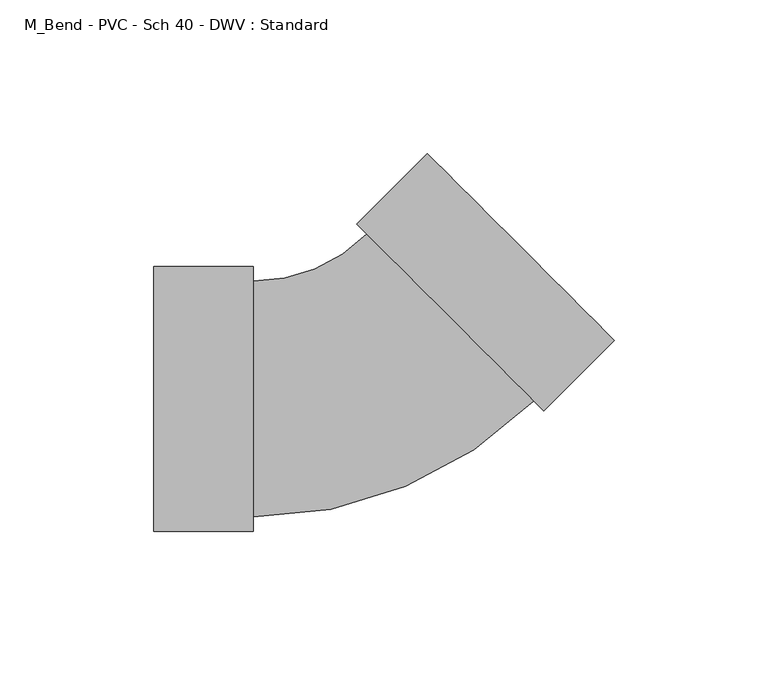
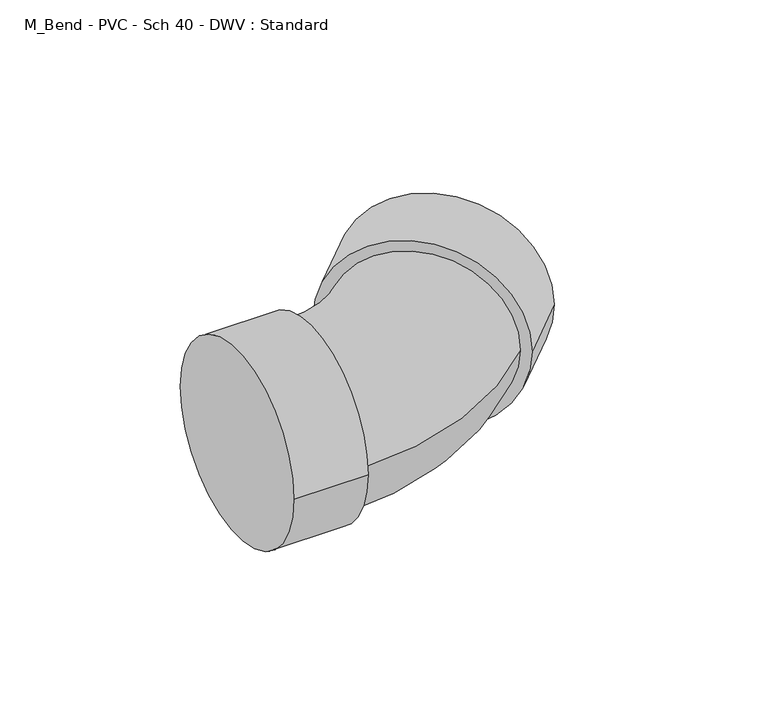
"""IFC4 building model written with IfcOpenShell, lengths in millimetres: pipe fitting geometry, M_Bend - PVC - Sch 40 - DWV : Standard."""

from ifc_helpers import new_model, si_unit, point, frame, origin, place, context, project, spatial, circle_curve, ellipse_curve, trimmed, source, transform, mapped, element, save
from ifc_brep_helpers import plane_surface, cylinder_surface, revolved_surface, advanced_brep


def m_bend_pvc_sch_40_dwv_standard_fbb643c2(model_context):
    return source(origin(), model_context, "Body", "AdvancedBrep", [
        advanced_brep(
        [(-70.0640625, -43.0871094, 0.0), (-70.0640625, 43.0871094, 0.0), (-37.5640625, -43.0871094, 0.0), (-37.5640625, 43.0871094, 0.0), (-37.5640625, -38.3640625, 0.0), (-37.5640625, 38.3640625, 0.0), (-0.5728336, 53.6892163, 0.0), (53.6893669, -0.5585373, 0.0), (57.02951, -3.8977911, 0.0), (-3.9129767, 57.0284701, 0.0), (80.0074205, 19.0862388, 0.0), (19.0649338, 80.0124999, 0.0)],
        [
            (0, 1, circle_curve(frame((-70.0640625, 0.0, 0.0), z_axis=(-1.0, 0.0, 0.0), x_axis=(0.0, 1.0, 0.0)), 43.0871094)),
            (1, 0, circle_curve(frame((-70.0640625, 0.0, 0.0), z_axis=(-1.0, 0.0, 0.0), x_axis=(0.0, 1.0, 0.0)), 43.0871094)),
            (2, 3, circle_curve(frame((-37.5640625, 0.0, 0.0), z_axis=(1.0, 0.0, 0.0), x_axis=(0.0, 1.0, 0.0)), 43.0871094)),
            (3, 2, circle_curve(frame((-37.5640625, 0.0, 0.0), z_axis=(1.0, 0.0, 0.0), x_axis=(0.0, 1.0, 0.0)), 43.0871094)),
            (4, 5, circle_curve(frame((-37.5640625, 0.0, 0.0), z_axis=(-1.0, 0.0, 0.0), x_axis=(0.0, 1.0, 0.0)), 38.3640625)),
            (5, 4, circle_curve(frame((-37.5640625, 0.0, 0.0), z_axis=(-1.0, 0.0, 0.0), x_axis=(0.0, 1.0, 0.0)), 38.3640625)),
            (0, 2),
            (3, 1),
            (6, 5, circle_curve(frame((-37.5640625, 90.6705965, 0.0), z_axis=(0.0, 0.0, -1.0), x_axis=(0.0, -1.0, 0.0)), 52.306534)),
            (4, 7, circle_curve(frame((-37.5640625, 90.6705965, 0.0), z_axis=(0.0, 0.0, 1.0), x_axis=(0.0, -1.0, 0.0)), 129.034659)),
            (7, 6, circle_curve(frame((26.5582667, 26.5653395, 0.0), z_axis=(-0.7070126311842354, -0.7072009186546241, 0.0), x_axis=(-0.7072009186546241, 0.7070126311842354, 0.0)), 38.3640625)),
            (6, 7, circle_curve(frame((26.5582667, 26.5653395, 0.0), z_axis=(-0.7070126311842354, -0.7072009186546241, 0.0), x_axis=(-0.7072009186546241, 0.7070126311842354, 0.0)), 38.3640625)),
            (8, 9, circle_curve(frame((26.5582667, 26.5653395, 0.0), z_axis=(-0.7070126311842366, -0.707200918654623, 0.0), x_axis=(-0.707200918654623, 0.7070126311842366, 0.0)), 43.0871094)),
            (9, 8, circle_curve(frame((26.5582667, 26.5653395, 0.0), z_axis=(-0.7070126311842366, -0.707200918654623, 0.0), x_axis=(-0.707200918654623, 0.7070126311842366, 0.0)), 43.0871094)),
            (10, 11, circle_curve(frame((49.5361772, 49.5493694, 0.0), z_axis=(0.7070126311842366, 0.707200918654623, 0.0), x_axis=(-0.707200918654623, 0.7070126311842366, 0.0)), 43.0871094)),
            (11, 10, circle_curve(frame((49.5361772, 49.5493694, 0.0), z_axis=(0.7070126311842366, 0.707200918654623, 0.0), x_axis=(-0.707200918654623, 0.7070126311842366, 0.0)), 43.0871094)),
            (8, 10),
            (11, 9),
        ],
        [
            plane_surface(frame((-70.0640625, 0.0, 0.0), z_axis=(-1.0, 0.0, 0.0), x_axis=(0.0, 0.0, 1.0))),
            plane_surface(frame((-37.5640625, 0.0, 0.0), z_axis=(1.0, 0.0, 0.0), x_axis=(0.0, 0.0, 1.0))),
            cylinder_surface(frame((-70.0640625, 0.0, 0.0), z_axis=(-1.0, 0.0, 0.0), x_axis=(0.0, 1.0, 0.0)), 43.0871094),
            revolved_surface(trimmed(ellipse_curve(frame((-37.5640625, 0.0, 0.0), z_axis=(-1.0, 0.0, 0.0), x_axis=(0.0, 1.0, 0.0)), 38.3640625, 38.3640625), [point((-37.5640625, -38.3640625, 0.0))], [point((-37.5640625, 38.3640625, 0.0))], True, "CARTESIAN"), (-37.5640625, 90.6705965, 0.0), (0.0, 0.0, 1.0)),
            revolved_surface(trimmed(ellipse_curve(frame((-37.5640625, 0.0, 0.0), z_axis=(-1.0, 0.0, 0.0), x_axis=(0.0, 1.0, 0.0)), 38.3640625, 38.3640625), [point((-37.5640625, 38.3640625, 0.0))], [point((-37.5640625, -38.3640625, 0.0))], True, "CARTESIAN"), (-37.5640625, 90.6705965, 0.0), (0.0, 0.0, 1.0)),
            plane_surface(frame((26.5582667, 26.5653395, 0.0), z_axis=(-0.7070126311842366, -0.707200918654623, 0.0), x_axis=(0.0, 0.0, 1.0))),
            plane_surface(frame((49.5361772, 49.5493694, 0.0), z_axis=(0.7070126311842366, 0.707200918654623, 0.0), x_axis=(0.0, 0.0, 1.0))),
            cylinder_surface(frame((26.5582667, 26.5653395, 0.0), z_axis=(-0.7070126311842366, -0.707200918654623, 0.0), x_axis=(-0.707200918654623, 0.7070126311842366, 0.0)), 43.0871094),
        ],
        [
            (0, [[1, 2]]),
            (1, [[3, 4], [5, 6]]),
            (2, [[-1, 7, -4, 8]]),
            (2, [[-2, -8, -3, -7]]),
            (3, [[9, -5, 10, 11]]),
            (4, [[-9, 12, -10, -6]]),
            (5, [[13, 14], [-11, -12]]),
            (6, [[15, 16]]),
            (7, [[-13, 17, -16, 18]]),
            (7, [[-14, -18, -15, -17]]),
        ],
    ),
    ])


if __name__ == "__main__":
    model = new_model("IFC4")
    model_context = context("Model", 3, world=origin())
    ifc_project = project(units=[si_unit("LENGTHUNIT", "METRE", prefix="MILLI")], contexts=[model_context])
    site = spatial("IfcSite", under=ifc_project)
    building = spatial("IfcBuilding", under=site)
    placement = place(None, origin())
    m_bend_pvc_sch_40_dwv_standard_shape = m_bend_pvc_sch_40_dwv_standard_fbb643c2(model_context)
    element("IfcPipeFitting", 1, ObjectType="M_Bend - PVC - Sch 40 - DWV : Standard", at=placement, inside=building, context=model_context, shape_type="MappedRepresentation", body=[
        mapped(m_bend_pvc_sch_40_dwv_standard_shape, transform((0.0, 0.0, 0.0), x_axis=(1.0, 0.0, 0.0), y_axis=(0.0, 1.0, 0.0), z_axis=(0.0, 0.0, 1.0))),
    ])
    save(model, "model.ifc")
